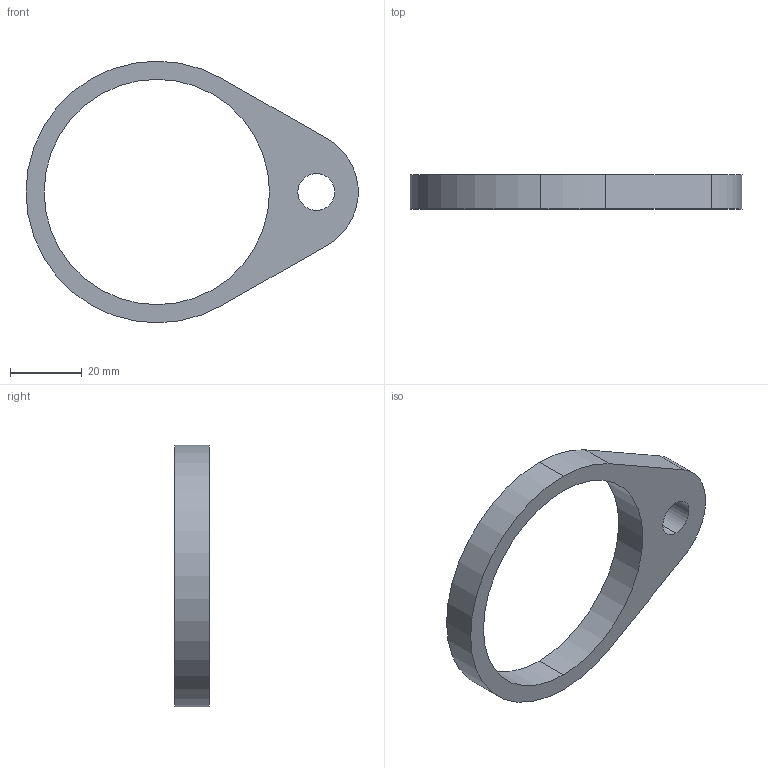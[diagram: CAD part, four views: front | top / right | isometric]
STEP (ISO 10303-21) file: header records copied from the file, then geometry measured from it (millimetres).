
FILE_DESCRIPTION (( 'STEP AP214' ), '1' );
FILE_NAME ('GasSpringClamp-A-63.stp', '2011-04-26T18:55:33', ( '' ), ( '' ), 'SwSTEP 2.0', 'SolidWorks 2010', '' );
FILE_SCHEMA (( 'AUTOMOTIVE_DESIGN' ));
Length unit declared in the file: inch
Products named in the file (1): GasSpringClamp-A-63
Bounding box: 92.82 x 9.53 x 73.15 mm (x, y, z)
Volume: 16485.4 mm3; surface area: 8102.7 mm2
Topology: 1 solids, 1 shells, 12 faces, 30 edges, 20 vertices
Faces by surface type: cylinder 8, plane 4
Entity records: 418 total; most frequent: DIRECTION 72, CARTESIAN_POINT 63, ORIENTED_EDGE 60, EDGE_CURVE 30, AXIS2_PLACEMENT_3D 29, VERTEX_POINT 20, CIRCLE 16, EDGE_LOOP 16
